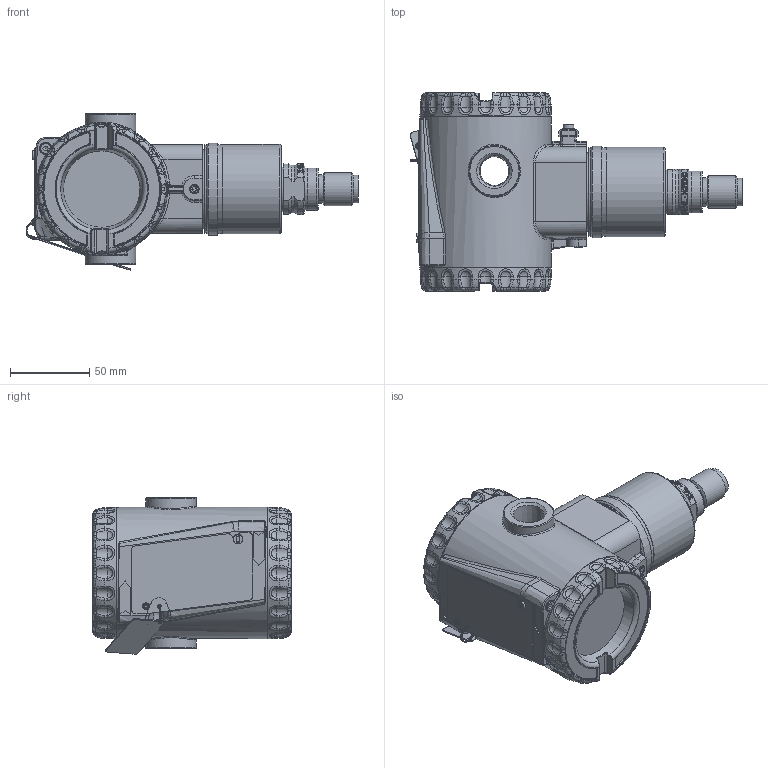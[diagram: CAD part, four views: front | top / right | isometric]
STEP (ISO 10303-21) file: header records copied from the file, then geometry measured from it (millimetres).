
FILE_DESCRIPTION(/* description */ (''),/* implementation_level */ '2;1');
FILE_NAME(/* name */ 'F:\Area\Desenvolvimento_2\Projects\Sensor\projetos\LD400-3d\dimensionais 3D clientes\LD400G\LD400G2-3 G1-2 B HP.stp',/* time_stamp */ '2023-02-02T16:40:52-03:00',/* author */ ('inventor02'),/* organization */ (''),/* preprocessor_version */ 'ST-DEVELOPER v17',/* originating_system */ 'Autodesk Inventor 2019',/* authorisation */ '');
FILE_SCHEMA (('CONFIG_CONTROL_DESIGN'));
Products named in the file (27): LD400G2-3 G1-2 B HP; SENSOR 29X FX2-3 G1-2 B HP; 101-B-5895-01 capa fx2-3; 101-C-3677-06 conexao ao processo 1-2NPT; 101-D-1309-04 pescoço LD29x usinado; 101-B-1773-06 conexão G1-2 B HP EN837-1; Carcaça 400 com tampas e plaqueta sem letras; 101-D-0845-05 carcaça LD400 sem letras; 101-B-3614-03-tampa 400 sem letras; Tampa visor 400 montada sem letras; 101-B-3612-05 tampa visor 400 sem letras; 101-A-6107; oring 2034; 00034775-0; WHW_250; DIN 915 - M6 x 10; Chapa aterramento externo; 201-A-1771-02 inserto terra recartilhado; AS 1969 - ST4,2; ISO 1207 - M4 x 8; ANSI B18.3.1M - M4x0,7 x 8; Subconjunto plaqueta 400; plaqueta 400 em branco; Parafuso da Plaqueta; Rebite da Plaqueta; 096-A-0169-03; 101-A-0502-01
Assembly tree (27 placements, depth 4):
  LD400G2-3 G1-2 B HP
    SENSOR 29X FX2-3 G1-2 B HP
      101-B-5895-01 capa fx2-3
      101-C-3677-06 conexao ao processo 1-2NPT
      101-D-1309-04 pescoço LD29x usinado
      101-B-1773-06 conexão G1-2 B HP EN837-1
    Carcaça 400 com tampas e plaqueta sem letras
      101-D-0845-05 carcaça LD400 sem letras
      101-B-3614-03-tampa 400 sem letras
      Tampa visor 400 montada sem letras
        101-B-3612-05 tampa visor 400 sem letras
        101-A-6107
        oring 2034
        00034775-0
        WHW_250
      DIN 915 - M6 x 10
      Chapa aterramento externo
      201-A-1771-02 inserto terra recartilhado
      AS 1969 - ST4,2
      ISO 1207 - M4 x 8
      ANSI B18.3.1M - M4x0,7 x 8  x2
      Subconjunto plaqueta 400
        plaqueta 400 em branco
        Parafuso da Plaqueta
        Rebite da Plaqueta
        096-A-0169-03
        101-A-0502-01
Bounding box: 209.55 x 125 x 98.64 mm (x, y, z)
Volume: 448635 mm3; surface area: 187645 mm2
Topology: 23 solids, 23 shells, 1961 faces, 4859 edges, 2964 vertices
Faces by surface type: plane 548, bspline 513, cylinder 439, torus 270, cone 136, sphere 55
Full cylindrical faces by diameter (mm): 2 x2, 2.1 x1, 2.2 x1, 2.459 x3, 2.7 x1, 3 x1, 3.242 x3, 3.5 x4, 3.571 x1, 4 x4, 4.3 x2, 4.4 x2, 4.917 x1, 6 x2, 6.1 x2, 6.2 x1, 7 x2, 7.6 x2, 8 x1, 17.5 x2, 18 x2, 18.3 x2, 20.8 x1, 26.5 x2, 28.399 x1, 32 x2, 32.2 x1, 34.15 x1, 35.15 x1, 35.2 x1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
Entity records: 75869 total; most frequent: CARTESIAN_POINT 30578, ORIENTED_EDGE 9550, DIRECTION 8867, EDGE_CURVE 4775, AXIS2_PLACEMENT_3D 3672, VERTEX_POINT 2935, CIRCLE 2097, EDGE_LOOP 2048
